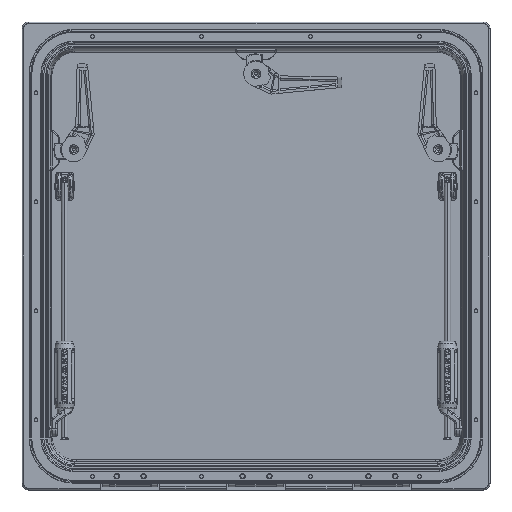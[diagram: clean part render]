
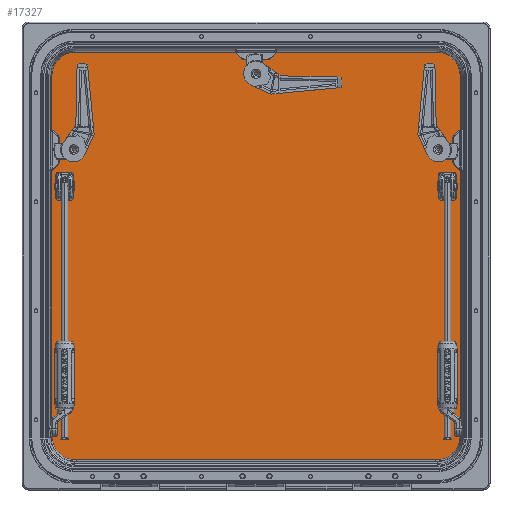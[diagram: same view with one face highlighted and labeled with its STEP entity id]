
A CAD part, front view. The second image highlights one B-rep face of the part: STEP entity #17327.
In plain terms, the highlighted planar face has unit normal (0, -1, 0).
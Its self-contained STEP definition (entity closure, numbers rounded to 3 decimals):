
#15138=DIRECTION('',(-1.,0.,0.));
#15139=VECTOR('',#15138,547.);
#15140=CARTESIAN_POINT('',(273.5,0.,-303.5));
#15141=LINE('',#15140,#15139);
#15142=CARTESIAN_POINT('',(-273.5,0.,-272.5));
#15143=DIRECTION('',(0.,-1.,0.));
#15144=DIRECTION('',(-1.,0.,0.));
#15145=AXIS2_PLACEMENT_3D('',#15142,#15143,#15144);
#15147=DIRECTION('',(0.,0.,1.));
#15148=VECTOR('',#15147,545.);
#15149=CARTESIAN_POINT('',(-304.5,0.,-272.5));
#15150=LINE('',#15149,#15148);
#15151=CARTESIAN_POINT('',(-273.5,0.,272.5));
#15152=DIRECTION('',(0.,-1.,0.));
#15153=DIRECTION('',(0.,0.,1.));
#15154=AXIS2_PLACEMENT_3D('',#15151,#15152,#15153);
#15156=DIRECTION('',(1.,0.,0.));
#15157=VECTOR('',#15156,547.);
#15158=CARTESIAN_POINT('',(-273.5,0.,303.5));
#15159=LINE('',#15158,#15157);
#15160=CARTESIAN_POINT('',(273.5,0.,272.5));
#15161=DIRECTION('',(0.,-1.,0.));
#15162=DIRECTION('',(1.,0.,0.));
#15163=AXIS2_PLACEMENT_3D('',#15160,#15161,#15162);
#15165=DIRECTION('',(0.,0.,-1.));
#15166=VECTOR('',#15165,545.);
#15167=CARTESIAN_POINT('',(304.5,0.,272.5));
#15168=LINE('',#15167,#15166);
#15169=CARTESIAN_POINT('',(273.5,0.,-272.5));
#15170=DIRECTION('',(0.,-1.,0.));
#15171=DIRECTION('',(0.,0.,-1.));
#15172=AXIS2_PLACEMENT_3D('',#15169,#15170,#15171);
#15238=CARTESIAN_POINT('',(294.,0.,87.));
#15239=DIRECTION('',(0.,-1.,0.));
#15240=DIRECTION('',(0.,0.,-1.));
#15241=AXIS2_PLACEMENT_3D('',#15238,#15239,#15240);
#15243=DIRECTION('',(0.,0.,1.));
#15244=VECTOR('',#15243,34.);
#15245=CARTESIAN_POINT('',(298.,0.,87.));
#15246=LINE('',#15245,#15244);
#15247=CARTESIAN_POINT('',(294.,0.,121.));
#15248=DIRECTION('',(0.,-1.,0.));
#15249=DIRECTION('',(1.,0.,0.));
#15250=AXIS2_PLACEMENT_3D('',#15247,#15248,#15249);
#15252=DIRECTION('',(-1.,0.,0.));
#15253=VECTOR('',#15252,18.);
#15254=CARTESIAN_POINT('',(294.,0.,125.));
#15255=LINE('',#15254,#15253);
#15256=CARTESIAN_POINT('',(276.,0.,121.));
#15257=DIRECTION('',(0.,-1.,0.));
#15258=DIRECTION('',(0.,0.,1.));
#15259=AXIS2_PLACEMENT_3D('',#15256,#15257,#15258);
#15261=DIRECTION('',(0.,0.,-1.));
#15262=VECTOR('',#15261,34.);
#15263=CARTESIAN_POINT('',(272.,0.,121.));
#15264=LINE('',#15263,#15262);
#15265=CARTESIAN_POINT('',(276.,0.,87.));
#15266=DIRECTION('',(0.,-1.,0.));
#15267=DIRECTION('',(-1.,0.,0.));
#15268=AXIS2_PLACEMENT_3D('',#15265,#15266,#15267);
#15270=DIRECTION('',(1.,0.,0.));
#15271=VECTOR('',#15270,18.);
#15272=CARTESIAN_POINT('',(276.,0.,83.));
#15273=LINE('',#15272,#15271);
#15274=CARTESIAN_POINT('',(-294.,0.,87.));
#15275=DIRECTION('',(0.,1.,0.));
#15276=DIRECTION('',(0.,0.,-1.));
#15277=AXIS2_PLACEMENT_3D('',#15274,#15275,#15276);
#15279=DIRECTION('',(-1.,0.,0.));
#15280=VECTOR('',#15279,18.);
#15281=CARTESIAN_POINT('',(-276.,0.,83.));
#15282=LINE('',#15281,#15280);
#15283=CARTESIAN_POINT('',(-276.,0.,87.));
#15284=DIRECTION('',(0.,1.,0.));
#15285=DIRECTION('',(1.,0.,0.));
#15286=AXIS2_PLACEMENT_3D('',#15283,#15284,#15285);
#15288=DIRECTION('',(0.,0.,-1.));
#15289=VECTOR('',#15288,34.);
#15290=CARTESIAN_POINT('',(-272.,0.,121.));
#15291=LINE('',#15290,#15289);
#15292=CARTESIAN_POINT('',(-276.,0.,121.));
#15293=DIRECTION('',(0.,1.,0.));
#15294=DIRECTION('',(0.,0.,1.));
#15295=AXIS2_PLACEMENT_3D('',#15292,#15293,#15294);
#15297=DIRECTION('',(1.,0.,0.));
#15298=VECTOR('',#15297,18.);
#15299=CARTESIAN_POINT('',(-294.,0.,125.));
#15300=LINE('',#15299,#15298);
#15301=CARTESIAN_POINT('',(-294.,0.,121.));
#15302=DIRECTION('',(0.,1.,0.));
#15303=DIRECTION('',(-1.,0.,0.));
#15304=AXIS2_PLACEMENT_3D('',#15301,#15302,#15303);
#15306=DIRECTION('',(0.,0.,1.));
#15307=VECTOR('',#15306,34.);
#15308=CARTESIAN_POINT('',(-298.,0.,87.));
#15309=LINE('',#15308,#15307);
#16904=CARTESIAN_POINT('',(273.5,0.,-303.5));
#16905=CARTESIAN_POINT('',(-273.5,0.,-303.5));
#16906=VERTEX_POINT('',#16904);
#16907=VERTEX_POINT('',#16905);
#16908=CARTESIAN_POINT('',(-304.5,0.,-272.5));
#16909=VERTEX_POINT('',#16908);
#16910=CARTESIAN_POINT('',(-304.5,0.,272.5));
#16911=VERTEX_POINT('',#16910);
#16912=CARTESIAN_POINT('',(-273.5,0.,303.5));
#16913=VERTEX_POINT('',#16912);
#16914=CARTESIAN_POINT('',(273.5,0.,303.5));
#16915=VERTEX_POINT('',#16914);
#16916=CARTESIAN_POINT('',(304.5,0.,272.5));
#16917=VERTEX_POINT('',#16916);
#16918=CARTESIAN_POINT('',(304.5,0.,-272.5));
#16919=VERTEX_POINT('',#16918);
#17172=CARTESIAN_POINT('',(294.,0.,83.));
#17173=CARTESIAN_POINT('',(298.,0.,87.));
#17174=VERTEX_POINT('',#17172);
#17175=VERTEX_POINT('',#17173);
#17176=CARTESIAN_POINT('',(298.,0.,121.));
#17177=VERTEX_POINT('',#17176);
#17178=CARTESIAN_POINT('',(294.,0.,125.));
#17179=VERTEX_POINT('',#17178);
#17180=CARTESIAN_POINT('',(276.,0.,125.));
#17181=VERTEX_POINT('',#17180);
#17182=CARTESIAN_POINT('',(272.,0.,121.));
#17183=VERTEX_POINT('',#17182);
#17184=CARTESIAN_POINT('',(272.,0.,87.));
#17185=VERTEX_POINT('',#17184);
#17186=CARTESIAN_POINT('',(276.,0.,83.));
#17187=VERTEX_POINT('',#17186);
#17212=CARTESIAN_POINT('',(-294.,0.,83.));
#17213=VERTEX_POINT('',#17212);
#17214=CARTESIAN_POINT('',(-298.,0.,87.));
#17215=VERTEX_POINT('',#17214);
#17216=CARTESIAN_POINT('',(-298.,0.,121.));
#17217=VERTEX_POINT('',#17216);
#17218=CARTESIAN_POINT('',(-294.,0.,125.));
#17219=VERTEX_POINT('',#17218);
#17220=CARTESIAN_POINT('',(-276.,0.,125.));
#17221=VERTEX_POINT('',#17220);
#17222=CARTESIAN_POINT('',(-272.,0.,121.));
#17223=VERTEX_POINT('',#17222);
#17224=CARTESIAN_POINT('',(-272.,0.,87.));
#17225=VERTEX_POINT('',#17224);
#17226=CARTESIAN_POINT('',(-276.,0.,83.));
#17227=VERTEX_POINT('',#17226);
#17268=CARTESIAN_POINT('',(0.,0.,0.));
#17269=DIRECTION('',(0.,1.,0.));
#17270=DIRECTION('',(1.,0.,0.));
#17271=AXIS2_PLACEMENT_3D('',#17268,#17269,#17270);
#17272=PLANE('',#17271);
#17274=ORIENTED_EDGE('',*,*,#17273,.T.);
#17276=ORIENTED_EDGE('',*,*,#17275,.F.);
#17278=ORIENTED_EDGE('',*,*,#17277,.T.);
#17280=ORIENTED_EDGE('',*,*,#17279,.F.);
#17282=ORIENTED_EDGE('',*,*,#17281,.T.);
#17284=ORIENTED_EDGE('',*,*,#17283,.F.);
#17286=ORIENTED_EDGE('',*,*,#17285,.T.);
#17288=ORIENTED_EDGE('',*,*,#17287,.F.);
#17289=EDGE_LOOP('',(#17274,#17276,#17278,#17280,#17282,#17284,#17286,#17288));
#17290=FACE_OUTER_BOUND('',#17289,.F.);
#17292=ORIENTED_EDGE('',*,*,#17291,.T.);
#17294=ORIENTED_EDGE('',*,*,#17293,.T.);
#17296=ORIENTED_EDGE('',*,*,#17295,.T.);
#17298=ORIENTED_EDGE('',*,*,#17297,.T.);
#17300=ORIENTED_EDGE('',*,*,#17299,.T.);
#17302=ORIENTED_EDGE('',*,*,#17301,.T.);
#17304=ORIENTED_EDGE('',*,*,#17303,.T.);
#17306=ORIENTED_EDGE('',*,*,#17305,.T.);
#17307=EDGE_LOOP('',(#17292,#17294,#17296,#17298,#17300,#17302,#17304,#17306));
#17308=FACE_BOUND('',#17307,.F.);
#17310=ORIENTED_EDGE('',*,*,#17309,.F.);
#17312=ORIENTED_EDGE('',*,*,#17311,.F.);
#17314=ORIENTED_EDGE('',*,*,#17313,.F.);
#17316=ORIENTED_EDGE('',*,*,#17315,.F.);
#17318=ORIENTED_EDGE('',*,*,#17317,.F.);
#17320=ORIENTED_EDGE('',*,*,#17319,.F.);
#17322=ORIENTED_EDGE('',*,*,#17321,.F.);
#17324=ORIENTED_EDGE('',*,*,#17323,.F.);
#17325=EDGE_LOOP('',(#17310,#17312,#17314,#17316,#17318,#17320,#17322,#17324));
#17326=FACE_BOUND('',#17325,.F.);
#17327=ADVANCED_FACE('',(#17290,#17308,#17326),#17272,.F.);
#15146=CIRCLE('',#15145,31.);
#15155=CIRCLE('',#15154,31.);
#15164=CIRCLE('',#15163,31.);
#15173=CIRCLE('',#15172,31.);
#15242=CIRCLE('',#15241,4.);
#15251=CIRCLE('',#15250,4.);
#15260=CIRCLE('',#15259,4.);
#15269=CIRCLE('',#15268,4.);
#15278=CIRCLE('',#15277,4.);
#15287=CIRCLE('',#15286,4.);
#15296=CIRCLE('',#15295,4.);
#15305=CIRCLE('',#15304,4.);
#17273=EDGE_CURVE('',#16906,#16907,#15141,.T.);
#17275=EDGE_CURVE('',#16909,#16907,#15146,.T.);
#17277=EDGE_CURVE('',#16909,#16911,#15150,.T.);
#17279=EDGE_CURVE('',#16913,#16911,#15155,.T.);
#17281=EDGE_CURVE('',#16913,#16915,#15159,.T.);
#17283=EDGE_CURVE('',#16917,#16915,#15164,.T.);
#17285=EDGE_CURVE('',#16917,#16919,#15168,.T.);
#17287=EDGE_CURVE('',#16906,#16919,#15173,.T.);
#17291=EDGE_CURVE('',#17174,#17175,#15242,.T.);
#17293=EDGE_CURVE('',#17175,#17177,#15246,.T.);
#17295=EDGE_CURVE('',#17177,#17179,#15251,.T.);
#17297=EDGE_CURVE('',#17179,#17181,#15255,.T.);
#17299=EDGE_CURVE('',#17181,#17183,#15260,.T.);
#17301=EDGE_CURVE('',#17183,#17185,#15264,.T.);
#17303=EDGE_CURVE('',#17185,#17187,#15269,.T.);
#17305=EDGE_CURVE('',#17187,#17174,#15273,.T.);
#17309=EDGE_CURVE('',#17213,#17215,#15278,.T.);
#17311=EDGE_CURVE('',#17227,#17213,#15282,.T.);
#17313=EDGE_CURVE('',#17225,#17227,#15287,.T.);
#17315=EDGE_CURVE('',#17223,#17225,#15291,.T.);
#17317=EDGE_CURVE('',#17221,#17223,#15296,.T.);
#17319=EDGE_CURVE('',#17219,#17221,#15300,.T.);
#17321=EDGE_CURVE('',#17217,#17219,#15305,.T.);
#17323=EDGE_CURVE('',#17215,#17217,#15309,.T.);
